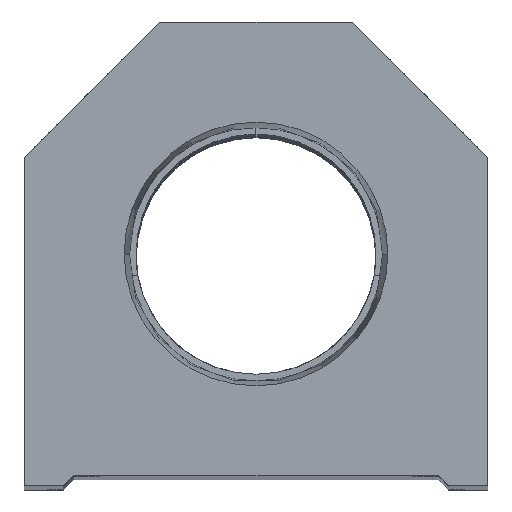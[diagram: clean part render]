
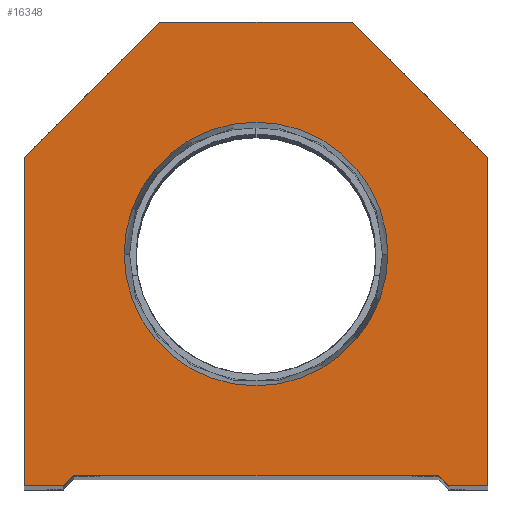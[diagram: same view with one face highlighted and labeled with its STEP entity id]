
A CAD part, top view. The second image highlights one B-rep face of the part: STEP entity #16348.
In plain terms, the highlighted planar face has unit normal (0, 0, 1).
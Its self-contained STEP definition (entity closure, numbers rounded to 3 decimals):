
#192 = EDGE_CURVE ( 'NONE', #8348, #4026, #5392, .T. ) ;
#513 = VERTEX_POINT ( 'NONE', #10565 ) ;
#681 = VECTOR ( 'NONE', #4306, 1000. ) ;
#1001 = CARTESIAN_POINT ( 'NONE',  ( 0., 22.25, 0. ) ) ;
#1065 = DIRECTION ( 'NONE',  ( 0.707, -0.707, 0. ) ) ;
#2019 = CARTESIAN_POINT ( 'NONE',  ( -18.5, 0., 0. ) ) ;
#2310 = CARTESIAN_POINT ( 'NONE',  ( 22.25, 0., 0. ) ) ;
#2460 = CARTESIAN_POINT ( 'NONE',  ( 9.25, 44.5, 0. ) ) ;
#2694 = CARTESIAN_POINT ( 'NONE',  ( -22.25, 31.5, 0. ) ) ;
#2794 = ORIENTED_EDGE ( 'NONE', *, *, #12300, .T. ) ;
#3554 = CARTESIAN_POINT ( 'NONE',  ( -17.5, 1., 0. ) ) ;
#3968 = VECTOR ( 'NONE', #6066, 1000. ) ;
#4026 = VERTEX_POINT ( 'NONE', #18023 ) ;
#4230 = EDGE_CURVE ( 'NONE', #27052, #6623, #17954, .T. ) ;
#4306 = DIRECTION ( 'NONE',  ( 0.707, 0.707, 0. ) ) ;
#4815 = ORIENTED_EDGE ( 'NONE', *, *, #15412, .T. ) ;
#4940 = CARTESIAN_POINT ( 'NONE',  ( 17.5, 0., 0. ) ) ;
#4974 = CARTESIAN_POINT ( 'NONE',  ( 0., 0., 0. ) ) ;
#5392 = LINE ( 'NONE', #3554, #25300 ) ;
#5503 = CARTESIAN_POINT ( 'NONE',  ( 9.25, 44.5, 0. ) ) ;
#5546 = CARTESIAN_POINT ( 'NONE',  ( 18.5, 0., 0. ) ) ;
#5575 = LINE ( 'NONE', #20704, #13326 ) ;
#6066 = DIRECTION ( 'NONE',  ( -0.707, 0.707, 0. ) ) ;
#6255 = ORIENTED_EDGE ( 'NONE', *, *, #7252, .T. ) ;
#6448 = CARTESIAN_POINT ( 'NONE',  ( -12.647, 22.25, 0. ) ) ;
#6559 = CARTESIAN_POINT ( 'NONE',  ( 12.647, 22.25, 0. ) ) ;
#6623 = VERTEX_POINT ( 'NONE', #27181 ) ;
#6802 = DIRECTION ( 'NONE',  ( 1., 0., 0. ) ) ;
#7113 = PLANE ( 'NONE',  #21741 ) ;
#7252 = EDGE_CURVE ( 'NONE', #23153, #27052, #11894, .T. ) ;
#7703 = AXIS2_PLACEMENT_3D ( 'NONE', #25652, #27384, #8125 ) ;
#8125 = DIRECTION ( 'NONE',  ( 1., 0., 0. ) ) ;
#8308 = EDGE_CURVE ( 'NONE', #6623, #10785, #17369, .T. ) ;
#8348 = VERTEX_POINT ( 'NONE', #18064 ) ;
#8954 = EDGE_CURVE ( 'NONE', #24072, #18012, #12150, .T. ) ;
#9422 = VERTEX_POINT ( 'NONE', #2019 ) ;
#9957 = EDGE_CURVE ( 'NONE', #19953, #513, #26175, .T. ) ;
#10128 = ORIENTED_EDGE ( 'NONE', *, *, #24467, .T. ) ;
#10220 = DIRECTION ( 'NONE',  ( 1., 0., 0. ) ) ;
#10565 = CARTESIAN_POINT ( 'NONE',  ( 22.25, 0., 0. ) ) ;
#10785 = VERTEX_POINT ( 'NONE', #15677 ) ;
#10964 = DIRECTION ( 'NONE',  ( 0., 1., 0. ) ) ;
#11051 = DIRECTION ( 'NONE',  ( -0.707, -0.707, 0. ) ) ;
#11144 = EDGE_CURVE ( 'NONE', #18012, #24072, #15838, .T. ) ;
#11894 = LINE ( 'NONE', #5503, #22425 ) ;
#12150 = CIRCLE ( 'NONE', #27960, 12.647 ) ;
#12300 = EDGE_CURVE ( 'NONE', #10785, #9422, #15537, .T. ) ;
#12995 = ORIENTED_EDGE ( 'NONE', *, *, #11144, .F. ) ;
#13326 = VECTOR ( 'NONE', #1065, 1000. ) ;
#13596 = DIRECTION ( 'NONE',  ( 0., 0., 1. ) ) ;
#13658 = CARTESIAN_POINT ( 'NONE',  ( -9.25, 44.5, 0. ) ) ;
#14013 = VECTOR ( 'NONE', #6802, 1000. ) ;
#14167 = EDGE_LOOP ( 'NONE', ( #2794, #4815, #14212, #20333, #19228, #17493, #10128, #6255, #18380, #17531 ) ) ;
#14212 = ORIENTED_EDGE ( 'NONE', *, *, #192, .T. ) ;
#15412 = EDGE_CURVE ( 'NONE', #9422, #8348, #17758, .T. ) ;
#15537 = LINE ( 'NONE', #26007, #19044 ) ;
#15677 = CARTESIAN_POINT ( 'NONE',  ( -22.25, 0., 0. ) ) ;
#15740 = FACE_OUTER_BOUND ( 'NONE', #14167, .T. ) ;
#15838 = CIRCLE ( 'NONE', #7703, 12.647 ) ;
#16348 = ADVANCED_FACE ( 'NONE', ( #20263, #15740 ), #7113, .T. ) ;
#17132 = EDGE_CURVE ( 'NONE', #513, #21586, #21690, .T. ) ;
#17369 = LINE ( 'NONE', #25577, #17528 ) ;
#17493 = ORIENTED_EDGE ( 'NONE', *, *, #17132, .T. ) ;
#17514 = DIRECTION ( 'NONE',  ( 1., 0., 0. ) ) ;
#17528 = VECTOR ( 'NONE', #23455, 1000. ) ;
#17531 = ORIENTED_EDGE ( 'NONE', *, *, #8308, .T. ) ;
#17758 = LINE ( 'NONE', #21573, #681 ) ;
#17954 = LINE ( 'NONE', #2694, #25285 ) ;
#18012 = VERTEX_POINT ( 'NONE', #6559 ) ;
#18023 = CARTESIAN_POINT ( 'NONE',  ( 17.5, 1., 0. ) ) ;
#18064 = CARTESIAN_POINT ( 'NONE',  ( -17.5, 1., 0. ) ) ;
#18380 = ORIENTED_EDGE ( 'NONE', *, *, #4230, .T. ) ;
#18503 = EDGE_LOOP ( 'NONE', ( #12995, #27706 ) ) ;
#18677 = CARTESIAN_POINT ( 'NONE',  ( 22.25, 31.5, 0. ) ) ;
#19044 = VECTOR ( 'NONE', #17514, 1000. ) ;
#19084 = LINE ( 'NONE', #27739, #3968 ) ;
#19228 = ORIENTED_EDGE ( 'NONE', *, *, #9957, .T. ) ;
#19839 = DIRECTION ( 'NONE',  ( 0., 0., 1. ) ) ;
#19953 = VERTEX_POINT ( 'NONE', #5546 ) ;
#20263 = FACE_BOUND ( 'NONE', #18503, .T. ) ;
#20333 = ORIENTED_EDGE ( 'NONE', *, *, #20406, .T. ) ;
#20406 = EDGE_CURVE ( 'NONE', #4026, #19953, #5575, .T. ) ;
#20510 = DIRECTION ( 'NONE',  ( -1., 0., 0. ) ) ;
#20704 = CARTESIAN_POINT ( 'NONE',  ( 9.25, 9.25, 0. ) ) ;
#21573 = CARTESIAN_POINT ( 'NONE',  ( -9.25, 9.25, 0. ) ) ;
#21586 = VERTEX_POINT ( 'NONE', #18677 ) ;
#21690 = LINE ( 'NONE', #2310, #22255 ) ;
#21741 = AXIS2_PLACEMENT_3D ( 'NONE', #4974, #19839, #22238 ) ;
#21934 = DIRECTION ( 'NONE',  ( 1., 0., 0. ) ) ;
#22238 = DIRECTION ( 'NONE',  ( 1., 0., 0. ) ) ;
#22255 = VECTOR ( 'NONE', #10964, 1000. ) ;
#22425 = VECTOR ( 'NONE', #20510, 1000. ) ;
#23153 = VERTEX_POINT ( 'NONE', #2460 ) ;
#23455 = DIRECTION ( 'NONE',  ( 0., -1., 0. ) ) ;
#24072 = VERTEX_POINT ( 'NONE', #6448 ) ;
#24467 = EDGE_CURVE ( 'NONE', #21586, #23153, #19084, .T. ) ;
#25285 = VECTOR ( 'NONE', #11051, 1000. ) ;
#25300 = VECTOR ( 'NONE', #10220, 1000. ) ;
#25577 = CARTESIAN_POINT ( 'NONE',  ( -22.25, 0., 0. ) ) ;
#25652 = CARTESIAN_POINT ( 'NONE',  ( 0., 22.25, 0. ) ) ;
#26007 = CARTESIAN_POINT ( 'NONE',  ( -17.5, 0., 0. ) ) ;
#26175 = LINE ( 'NONE', #4940, #14013 ) ;
#27052 = VERTEX_POINT ( 'NONE', #13658 ) ;
#27181 = CARTESIAN_POINT ( 'NONE',  ( -22.25, 31.5, 0. ) ) ;
#27384 = DIRECTION ( 'NONE',  ( 0., 0., 1. ) ) ;
#27706 = ORIENTED_EDGE ( 'NONE', *, *, #8954, .F. ) ;
#27739 = CARTESIAN_POINT ( 'NONE',  ( 22.25, 31.5, 0. ) ) ;
#27960 = AXIS2_PLACEMENT_3D ( 'NONE', #1001, #13596, #21934 ) ;
